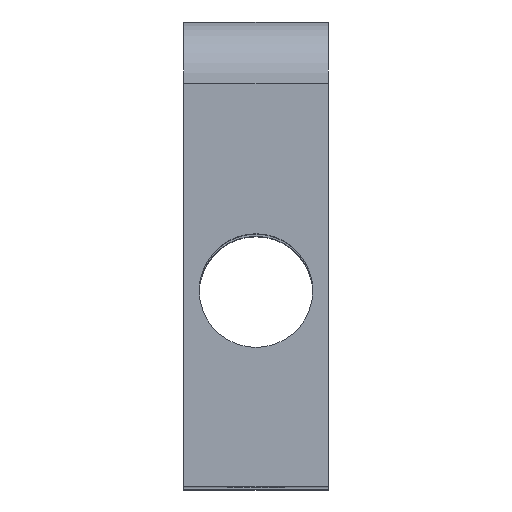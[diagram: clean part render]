
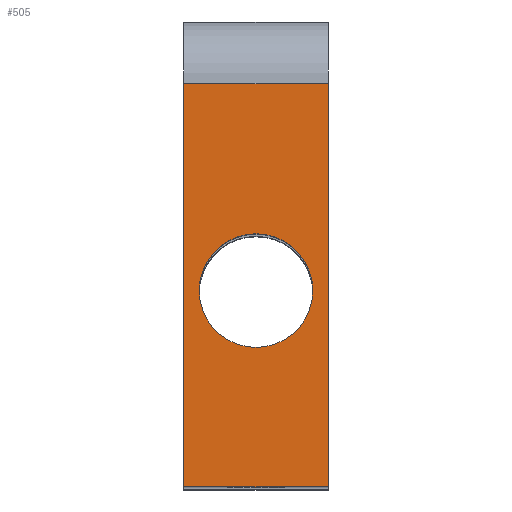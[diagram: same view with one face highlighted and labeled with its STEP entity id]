
A CAD part, top view. The second image highlights one B-rep face of the part: STEP entity #505.
In plain terms, the highlighted planar face has unit normal (0, 0, 1).
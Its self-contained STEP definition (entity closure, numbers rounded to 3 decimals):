
#22 = VERTEX_POINT('',#23);
#23 = CARTESIAN_POINT('',(121.,469.05,186.));
#33 = PLANE('',#34);
#34 = AXIS2_PLACEMENT_3D('',#35,#36,#37);
#35 = CARTESIAN_POINT('',(121.,430.05,14.));
#36 = DIRECTION('',(1.,0.,0.));
#37 = DIRECTION('',(0.,0.,1.));
#49 = CYLINDRICAL_SURFACE('',#50,6.);
#50 = AXIS2_PLACEMENT_3D('',#51,#52,#53);
#51 = CARTESIAN_POINT('',(121.,469.05,180.));
#52 = DIRECTION('',(1.,0.,0.));
#53 = DIRECTION('',(0.,0.,1.));
#61 = EDGE_CURVE('',#62,#22,#64,.T.);
#62 = VERTEX_POINT('',#63);
#63 = CARTESIAN_POINT('',(121.,430.05,186.));
#64 = SURFACE_CURVE('',#65,(#69,#76),.PCURVE_S1.);
#65 = LINE('',#66,#67);
#66 = CARTESIAN_POINT('',(121.,430.05,186.));
#67 = VECTOR('',#68,1.);
#68 = DIRECTION('',(0.,1.,0.));
#69 = PCURVE('',#33,#70);
#70 = DEFINITIONAL_REPRESENTATION('',(#71),#75);
#71 = LINE('',#72,#73);
#72 = CARTESIAN_POINT('',(172.,0.));
#73 = VECTOR('',#74,1.);
#74 = DIRECTION('',(0.,-1.));
#75 = ( GEOMETRIC_REPRESENTATION_CONTEXT(2) 
PARAMETRIC_REPRESENTATION_CONTEXT() REPRESENTATION_CONTEXT('2D SPACE',''
  ) );
#76 = PCURVE('',#77,#82);
#77 = PLANE('',#78);
#78 = AXIS2_PLACEMENT_3D('',#79,#80,#81);
#79 = CARTESIAN_POINT('',(121.,430.05,186.));
#80 = DIRECTION('',(0.,0.,1.));
#81 = DIRECTION('',(1.,0.,0.));
#82 = DEFINITIONAL_REPRESENTATION('',(#83),#87);
#83 = LINE('',#84,#85);
#84 = CARTESIAN_POINT('',(0.,0.));
#85 = VECTOR('',#86,1.);
#86 = DIRECTION('',(0.,1.));
#87 = ( GEOMETRIC_REPRESENTATION_CONTEXT(2) 
PARAMETRIC_REPRESENTATION_CONTEXT() REPRESENTATION_CONTEXT('2D SPACE',''
  ) );
#105 = PLANE('',#106);
#106 = AXIS2_PLACEMENT_3D('',#107,#108,#109);
#107 = CARTESIAN_POINT('',(121.,430.05,14.));
#108 = DIRECTION('',(0.,1.,0.));
#109 = DIRECTION('',(0.,0.,1.));
#453 = VERTEX_POINT('',#454);
#454 = CARTESIAN_POINT('',(135.,469.05,186.));
#469 = PLANE('',#470);
#470 = AXIS2_PLACEMENT_3D('',#471,#472,#473);
#471 = CARTESIAN_POINT('',(135.,430.05,14.));
#472 = DIRECTION('',(1.,0.,0.));
#473 = DIRECTION('',(0.,0.,1.));
#485 = EDGE_CURVE('',#22,#453,#486,.T.);
#486 = SURFACE_CURVE('',#487,(#491,#498),.PCURVE_S1.);
#487 = LINE('',#488,#489);
#488 = CARTESIAN_POINT('',(121.,469.05,186.));
#489 = VECTOR('',#490,1.);
#490 = DIRECTION('',(1.,0.,0.));
#491 = PCURVE('',#49,#492);
#492 = DEFINITIONAL_REPRESENTATION('',(#493),#497);
#493 = LINE('',#494,#495);
#494 = CARTESIAN_POINT('',(-0.,0.));
#495 = VECTOR('',#496,1.);
#496 = DIRECTION('',(-0.,1.));
#497 = ( GEOMETRIC_REPRESENTATION_CONTEXT(2) 
PARAMETRIC_REPRESENTATION_CONTEXT() REPRESENTATION_CONTEXT('2D SPACE',''
  ) );
#498 = PCURVE('',#77,#499);
#499 = DEFINITIONAL_REPRESENTATION('',(#500),#504);
#500 = LINE('',#501,#502);
#501 = CARTESIAN_POINT('',(0.,39.));
#502 = VECTOR('',#503,1.);
#503 = DIRECTION('',(1.,0.));
#504 = ( GEOMETRIC_REPRESENTATION_CONTEXT(2) 
PARAMETRIC_REPRESENTATION_CONTEXT() REPRESENTATION_CONTEXT('2D SPACE',''
  ) );
#505 = ADVANCED_FACE('',(#506,#554),#77,.T.);
#506 = FACE_BOUND('',#507,.T.);
#507 = EDGE_LOOP('',(#508,#509,#532,#553));
#508 = ORIENTED_EDGE('',*,*,#61,.F.);
#509 = ORIENTED_EDGE('',*,*,#510,.T.);
#510 = EDGE_CURVE('',#62,#511,#513,.T.);
#511 = VERTEX_POINT('',#512);
#512 = CARTESIAN_POINT('',(135.,430.05,186.));
#513 = SURFACE_CURVE('',#514,(#518,#525),.PCURVE_S1.);
#514 = LINE('',#515,#516);
#515 = CARTESIAN_POINT('',(121.,430.05,186.));
#516 = VECTOR('',#517,1.);
#517 = DIRECTION('',(1.,0.,0.));
#518 = PCURVE('',#77,#519);
#519 = DEFINITIONAL_REPRESENTATION('',(#520),#524);
#520 = LINE('',#521,#522);
#521 = CARTESIAN_POINT('',(0.,0.));
#522 = VECTOR('',#523,1.);
#523 = DIRECTION('',(1.,0.));
#524 = ( GEOMETRIC_REPRESENTATION_CONTEXT(2) 
PARAMETRIC_REPRESENTATION_CONTEXT() REPRESENTATION_CONTEXT('2D SPACE',''
  ) );
#525 = PCURVE('',#105,#526);
#526 = DEFINITIONAL_REPRESENTATION('',(#527),#531);
#527 = LINE('',#528,#529);
#528 = CARTESIAN_POINT('',(172.,0.));
#529 = VECTOR('',#530,1.);
#530 = DIRECTION('',(0.,1.));
#531 = ( GEOMETRIC_REPRESENTATION_CONTEXT(2) 
PARAMETRIC_REPRESENTATION_CONTEXT() REPRESENTATION_CONTEXT('2D SPACE',''
  ) );
#532 = ORIENTED_EDGE('',*,*,#533,.T.);
#533 = EDGE_CURVE('',#511,#453,#534,.T.);
#534 = SURFACE_CURVE('',#535,(#539,#546),.PCURVE_S1.);
#535 = LINE('',#536,#537);
#536 = CARTESIAN_POINT('',(135.,430.05,186.));
#537 = VECTOR('',#538,1.);
#538 = DIRECTION('',(0.,1.,0.));
#539 = PCURVE('',#77,#540);
#540 = DEFINITIONAL_REPRESENTATION('',(#541),#545);
#541 = LINE('',#542,#543);
#542 = CARTESIAN_POINT('',(14.,0.));
#543 = VECTOR('',#544,1.);
#544 = DIRECTION('',(0.,1.));
#545 = ( GEOMETRIC_REPRESENTATION_CONTEXT(2) 
PARAMETRIC_REPRESENTATION_CONTEXT() REPRESENTATION_CONTEXT('2D SPACE',''
  ) );
#546 = PCURVE('',#469,#547);
#547 = DEFINITIONAL_REPRESENTATION('',(#548),#552);
#548 = LINE('',#549,#550);
#549 = CARTESIAN_POINT('',(172.,0.));
#550 = VECTOR('',#551,1.);
#551 = DIRECTION('',(0.,-1.));
#552 = ( GEOMETRIC_REPRESENTATION_CONTEXT(2) 
PARAMETRIC_REPRESENTATION_CONTEXT() REPRESENTATION_CONTEXT('2D SPACE',''
  ) );
#553 = ORIENTED_EDGE('',*,*,#485,.F.);
#554 = FACE_BOUND('',#555,.T.);
#555 = EDGE_LOOP('',(#556));
#556 = ORIENTED_EDGE('',*,*,#557,.T.);
#557 = EDGE_CURVE('',#558,#558,#560,.T.);
#558 = VERTEX_POINT('',#559);
#559 = CARTESIAN_POINT('',(133.5,449.05,186.));
#560 = SURFACE_CURVE('',#561,(#566,#577),.PCURVE_S1.);
#561 = CIRCLE('',#562,5.5);
#562 = AXIS2_PLACEMENT_3D('',#563,#564,#565);
#563 = CARTESIAN_POINT('',(128.,449.05,186.));
#564 = DIRECTION('',(0.,0.,-1.));
#565 = DIRECTION('',(1.,0.,0.));
#566 = PCURVE('',#77,#567);
#567 = DEFINITIONAL_REPRESENTATION('',(#568),#576);
#568 = ( BOUNDED_CURVE() B_SPLINE_CURVE(2,(#569,#570,#571,#572,#573,#574
,#575),.UNSPECIFIED.,.T.,.F.) B_SPLINE_CURVE_WITH_KNOTS((1,2,2,2,2,1),(
    -2.094,0.,2.094,4.189,6.283,
8.378),.UNSPECIFIED.) CURVE() GEOMETRIC_REPRESENTATION_ITEM() 
RATIONAL_B_SPLINE_CURVE((1.,0.5,1.,0.5,1.,0.5,1.)) REPRESENTATION_ITEM(
  '') );
#569 = CARTESIAN_POINT('',(12.5,19.));
#570 = CARTESIAN_POINT('',(12.5,9.474));
#571 = CARTESIAN_POINT('',(4.25,14.237));
#572 = CARTESIAN_POINT('',(-4.,19.));
#573 = CARTESIAN_POINT('',(4.25,23.763));
#574 = CARTESIAN_POINT('',(12.5,28.526));
#575 = CARTESIAN_POINT('',(12.5,19.));
#576 = ( GEOMETRIC_REPRESENTATION_CONTEXT(2) 
PARAMETRIC_REPRESENTATION_CONTEXT() REPRESENTATION_CONTEXT('2D SPACE',''
  ) );
#577 = PCURVE('',#578,#583);
#578 = CYLINDRICAL_SURFACE('',#579,5.5);
#579 = AXIS2_PLACEMENT_3D('',#580,#581,#582);
#580 = CARTESIAN_POINT('',(128.,449.05,159.));
#581 = DIRECTION('',(-0.,-0.,-1.));
#582 = DIRECTION('',(1.,0.,0.));
#583 = DEFINITIONAL_REPRESENTATION('',(#584),#588);
#584 = LINE('',#585,#586);
#585 = CARTESIAN_POINT('',(-6.283,-27.));
#586 = VECTOR('',#587,1.);
#587 = DIRECTION('',(1.,-0.));
#588 = ( GEOMETRIC_REPRESENTATION_CONTEXT(2) 
PARAMETRIC_REPRESENTATION_CONTEXT() REPRESENTATION_CONTEXT('2D SPACE',''
  ) );
